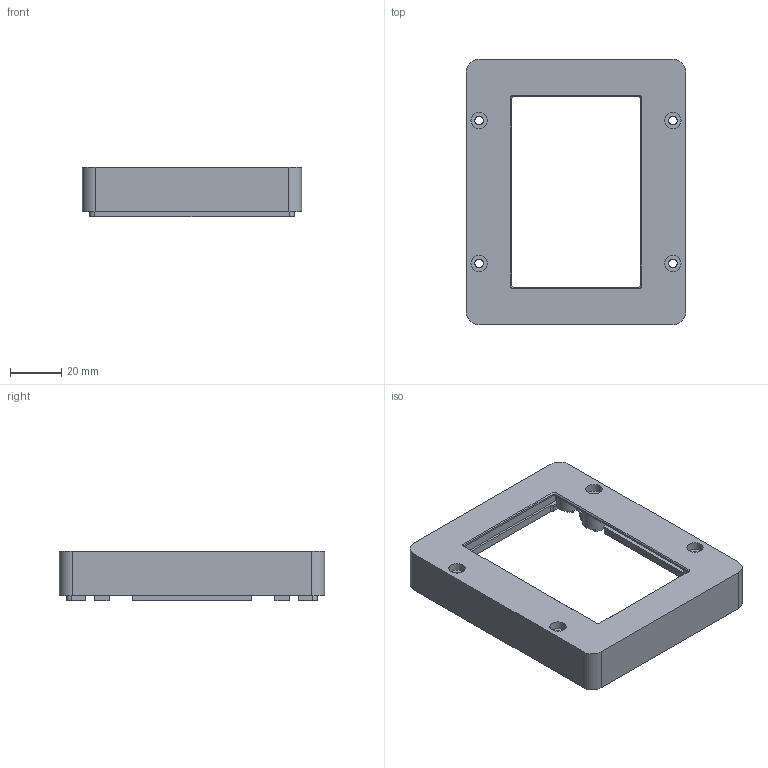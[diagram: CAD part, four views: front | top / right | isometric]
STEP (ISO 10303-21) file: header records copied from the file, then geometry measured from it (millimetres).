
FILE_DESCRIPTION(/* description */ (''),/* implementation_level */ '2;1');
FILE_NAME(/* name */ 'carrier-top.step',/* time_stamp */ '2026-09-11T12:50:13-07:00',/* author */ (''),/* organization */ (''),/* preprocessor_version */ 'ST-DEVELOPER v20.1',/* originating_system */ 'Autodesk Translation Framework v15.8.0.0',/* authorisation */ '');
FILE_SCHEMA (('AUTOMOTIVE_DESIGN { 1 0 10303 214 3 1 1 }'));
Length unit declared in the file: centimetre
Products named in the file (1): 02 Top bezel - four anchors
Bounding box: 86 x 104 x 19.3 mm (x, y, z)
Volume: 31357.3 mm3; surface area: 27582.9 mm2
Topology: 1 solids, 1 shells, 157 faces, 418 edges, 277 vertices
Faces by surface type: plane 92, cylinder 64, bspline 1
Full cylindrical faces by diameter (mm): 3.4 x4, 4 x4, 6.4 x4, 9 x4
Entity records: 5243 total; most frequent: CARTESIAN_POINT 1109, DIRECTION 891, ORIENTED_EDGE 836, EDGE_CURVE 418, AXIS2_PLACEMENT_3D 317, VERTEX_POINT 277, LINE 257, VECTOR 257
